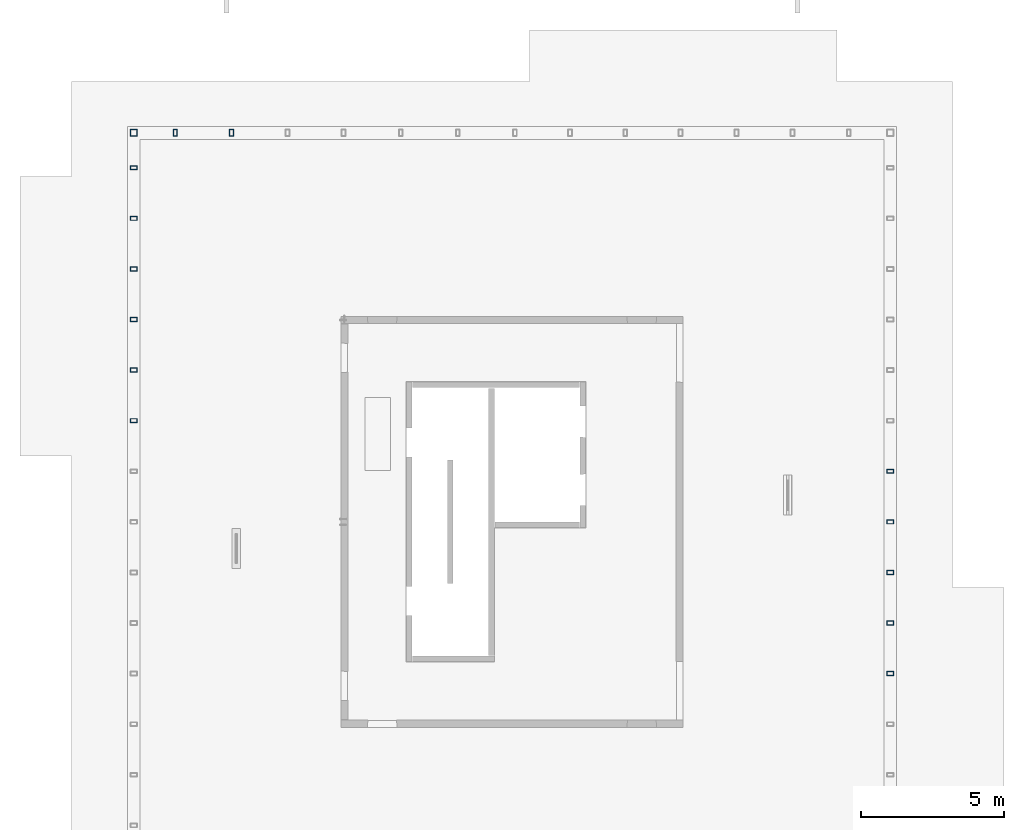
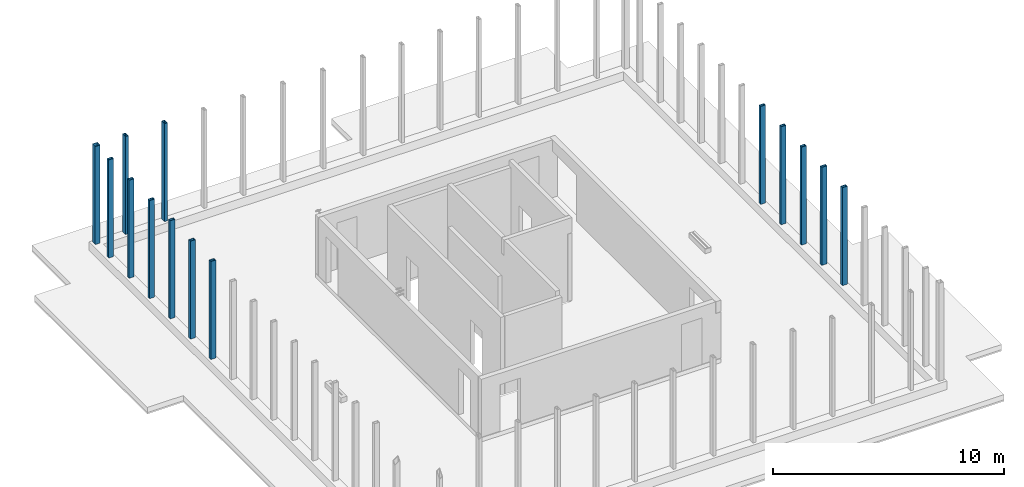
# One storey, part 3 of 9: 14 columns.
"""IFC2X3 building model written with IfcOpenShell, lengths in millimetres."""

from ifc_helpers import new_model, entity, si_unit, converted_unit, derived_unit, direction, frame, frame_2d, origin, place, context, subcontext, project, spatial, polyline, circle_curve, parameter, trimmed, segment, composite_curve, outline, extrude, source, transform, mapped, material, type_object, type_shapes, element, save


model = new_model("IFC2X3")

# Units and contexts
model_context = context("Model", 3, precision=0.01, world=origin(), true_north=direction((6.12303176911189e-17, 1.0)))
body_context = subcontext(model_context, "Body", "Model", "MODEL_VIEW")
ifc_project = project(units=[si_unit("LENGTHUNIT", "METRE", prefix="MILLI"), si_unit("AREAUNIT", "SQUARE_METRE"), si_unit("VOLUMEUNIT", "CUBIC_METRE"), converted_unit("PLANEANGLEUNIT", "DEGREE", entity("IfcRatioMeasure", 0.0174532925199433), si_unit("PLANEANGLEUNIT", "RADIAN"), dimensions=[0, 0, 0, 0, 0, 0, 0]), si_unit("MASSUNIT", "GRAM", prefix="KILO"), derived_unit("MASSDENSITYUNIT", [(si_unit("MASSUNIT", "GRAM", prefix="KILO"), 1), (si_unit("LENGTHUNIT", "METRE"), -3)]), si_unit("TIMEUNIT", "SECOND"), si_unit("FREQUENCYUNIT", "HERTZ"), si_unit("THERMODYNAMICTEMPERATUREUNIT", "DEGREE_CELSIUS"), derived_unit("THERMALTRANSMITTANCEUNIT", [(si_unit("MASSUNIT", "GRAM", prefix="KILO"), 1), (si_unit("THERMODYNAMICTEMPERATUREUNIT", "KELVIN"), -1), (si_unit("TIMEUNIT", "SECOND"), -3)]), derived_unit("VOLUMETRICFLOWRATEUNIT", [(si_unit("LENGTHUNIT", "METRE"), 3), (si_unit("TIMEUNIT", "SECOND"), -1)]), si_unit("ELECTRICCURRENTUNIT", "AMPERE"), si_unit("ELECTRICVOLTAGEUNIT", "VOLT"), si_unit("POWERUNIT", "WATT"), si_unit("FORCEUNIT", "NEWTON", prefix="KILO"), si_unit("ILLUMINANCEUNIT", "LUX"), si_unit("LUMINOUSFLUXUNIT", "LUMEN"), si_unit("LUMINOUSINTENSITYUNIT", "CANDELA"), derived_unit("USERDEFINED", [(si_unit("MASSUNIT", "GRAM", prefix="KILO"), -1), (si_unit("LENGTHUNIT", "METRE"), -2), (si_unit("TIMEUNIT", "SECOND"), 3), (si_unit("LUMINOUSFLUXUNIT", "LUMEN"), 1)]), derived_unit("LINEARVELOCITYUNIT", [(si_unit("LENGTHUNIT", "METRE"), 1), (si_unit("TIMEUNIT", "SECOND"), -1)]), si_unit("PRESSUREUNIT", "PASCAL"), derived_unit("USERDEFINED", [(si_unit("LENGTHUNIT", "METRE"), -2), (si_unit("MASSUNIT", "GRAM", prefix="KILO"), 1), (si_unit("TIMEUNIT", "SECOND"), -2)])], contexts=[model_context])

# Site, building, storey
site_placement = place(None, origin())
site = spatial("IfcSite", under=ifc_project, at=site_placement, Name="Default", CompositionType="ELEMENT")
building_placement = place(site_placement, origin())
building = spatial("IfcBuilding", under=site, at=building_placement, Name="niet gebruiken", CompositionType="ELEMENT")
storey_placement = place(building_placement, frame((0.0, 0.0, 178840.0)))
storey = spatial("IfcBuildingStorey", under=building, at=storey_placement, Name="57 zevenenvijftigste verdieping", CompositionType="ELEMENT", Elevation=178840.0)

# Columns
ifc_material = material(Name="NLRS_h2_staal")
column_type_1 = type_object("IfcColumnType", Name="kolom buisprofiel rechthoekig RHSH_250x150x16", PredefinedType="COLUMN", material=ifc_material)
shared_shape_1 = source(origin(), body_context, "Body", "SweptSolid", [
    extrude(outline(polyline([(-125.0, -75.0), (125.0, -75.0), (125.0, 75.0), (-125.0, 75.0), (-125.0, -75.0)]), holes=[composite_curve([segment(trimmed(circle_curve(frame_2d((-96.5, -46.5000000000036), x_axis=(0.0, 1.0)), 12.5), [parameter(90.0)], [parameter(180.0)], True, "PARAMETER"), False, "CONTINUOUS"), segment(polyline([(-109.0, -46.4999999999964), (-109.0, 46.5)]), True, "CONTINUOUS"), segment(trimmed(circle_curve(frame_2d((-96.5, 46.5), x_axis=(0.0, 1.0)), 12.5), [parameter(360.0)], [parameter(89.9999999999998)], True, "PARAMETER"), False, "CONTINUOUS"), segment(polyline([(-96.4999999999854, 59.0), (96.5, 59.0)]), True, "CONTINUOUS"), segment(trimmed(circle_curve(frame_2d((96.5, 46.5), x_axis=(0.0, 1.0)), 12.5), [parameter(270.0)], [parameter(360.0)], True, "PARAMETER"), False, "CONTINUOUS"), segment(polyline([(109.0, 46.5), (109.0, -46.4999999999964)]), True, "CONTINUOUS"), segment(trimmed(circle_curve(frame_2d((96.5, -46.5000000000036), x_axis=(0.0, 1.0)), 12.5), [parameter(180.0)], [parameter(270.0)], True, "PARAMETER"), False, "CONTINUOUS"), segment(polyline([(96.5, -59.0), (-96.4999999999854, -59.0)]), True, "CONTINUOUS")], self_intersect=False)]), frame((128495.0, 24590.0, 179010.0)), (0.0, 0.0, 1.0), 5190.00000000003),
])
type_shapes(column_type_1, [shared_shape_1])
column_1_placement = place(storey_placement, frame((0.0, 0.0, -178840.0)))
element("IfcColumn", 1, at=column_1_placement, inside=storey, type_object=column_type_1, material=ifc_material, Name="NLRS_28.11_SCO_TLB_stalen kolom buisprofiel rechthoekig_gen:kolom buisprofiel rechthoekig RHSH_250x150x16", ObjectType="kolom buisprofiel rechthoekig RHSH_250x150x16", context=body_context, shape_type="MappedRepresentation", body=[
    mapped(shared_shape_1, transform((0.0, 0.0, 0.0), scale=1.0)),
])
column_type_2 = type_object("IfcColumnType", Name="kolom buisprofiel rechthoekig RHSH_250x150x16", PredefinedType="COLUMN", material=ifc_material)
shared_shape_2 = source(origin(), body_context, "Body", "SweptSolid", [
    extrude(outline(polyline([(-125.0, -75.0), (125.0, -75.0), (125.0, 75.0), (-125.0, 75.0), (-125.0, -75.0)]), holes=[composite_curve([segment(trimmed(circle_curve(frame_2d((-96.5, -46.5), x_axis=(0.0, 1.0)), 12.5), [parameter(90.0)], [parameter(180.0)], True, "PARAMETER"), False, "CONTINUOUS"), segment(polyline([(-109.0, -46.5), (-109.0, 46.5)]), True, "CONTINUOUS"), segment(trimmed(circle_curve(frame_2d((-96.5, 46.5), x_axis=(0.0, 1.0)), 12.5), [parameter(360.0)], [parameter(89.9999999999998)], True, "PARAMETER"), False, "CONTINUOUS"), segment(polyline([(-96.5, 59.0), (96.5, 59.0)]), True, "CONTINUOUS"), segment(trimmed(circle_curve(frame_2d((96.5, 46.5), x_axis=(0.0, 1.0)), 12.5), [parameter(270.0)], [parameter(360.0)], True, "PARAMETER"), False, "CONTINUOUS"), segment(polyline([(109.0, 46.5), (109.0, -46.5)]), True, "CONTINUOUS"), segment(trimmed(circle_curve(frame_2d((96.5, -46.5), x_axis=(0.0, 1.0)), 12.5), [parameter(180.0)], [parameter(270.0)], True, "PARAMETER"), False, "CONTINUOUS"), segment(polyline([(96.5, -59.0), (-96.5, -59.0)]), True, "CONTINUOUS")], self_intersect=False)]), frame((155005.0, 17500.0, 179010.0)), (0.0, 0.0, 1.0), 5190.00000000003),
])
type_shapes(column_type_2, [shared_shape_2])
column_2_placement = place(storey_placement, frame((0.0, 0.0, -178840.0)))
element("IfcColumn", 2, at=column_2_placement, inside=storey, type_object=column_type_2, material=ifc_material, Name="NLRS_28.11_SCO_TLB_stalen kolom buisprofiel rechthoekig_gen:kolom buisprofiel rechthoekig RHSH_250x150x16", ObjectType="kolom buisprofiel rechthoekig RHSH_250x150x16", context=body_context, shape_type="MappedRepresentation", body=[
    mapped(shared_shape_2, transform((0.0, 0.0, 0.0), scale=1.0)),
])
column_type_3 = type_object("IfcColumnType", Name="kolom buisprofiel rechthoekig RHSH_250x150x16", PredefinedType="COLUMN", material=ifc_material)
shared_shape_3 = source(origin(), body_context, "Body", "SweptSolid", [
    extrude(outline(polyline([(-125.0, -75.0), (125.0, -75.0), (125.0, 75.0), (-125.0, 75.0), (-125.0, -75.0)]), holes=[composite_curve([segment(trimmed(circle_curve(frame_2d((-96.5000000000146, -46.5000000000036), x_axis=(0.0, 1.0)), 12.5), [parameter(90.0)], [parameter(180.0)], True, "PARAMETER"), False, "CONTINUOUS"), segment(polyline([(-109.0, -46.5), (-109.0, 46.4999999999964)]), True, "CONTINUOUS"), segment(trimmed(circle_curve(frame_2d((-96.5000000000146, 46.4999999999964), x_axis=(0.0, 1.0)), 12.5), [parameter(360.0)], [parameter(89.9999999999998)], True, "PARAMETER"), False, "CONTINUOUS"), segment(polyline([(-96.5, 59.0), (96.4999999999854, 59.0)]), True, "CONTINUOUS"), segment(trimmed(circle_curve(frame_2d((96.4999999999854, 46.4999999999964), x_axis=(0.0, 1.0)), 12.5), [parameter(270.0)], [parameter(360.0)], True, "PARAMETER"), False, "CONTINUOUS"), segment(polyline([(109.0, 46.4999999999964), (109.0, -46.5)]), True, "CONTINUOUS"), segment(trimmed(circle_curve(frame_2d((96.4999999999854, -46.5000000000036), x_axis=(0.0, 1.0)), 12.5), [parameter(180.0)], [parameter(270.0)], True, "PARAMETER"), False, "CONTINUOUS"), segment(polyline([(96.4999999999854, -59.0), (-96.5, -59.0)]), True, "CONTINUOUS")], self_intersect=False)]), frame((128495.0, 29907.5000000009, 179010.0)), (0.0, 0.0, 1.0), 5190.00000000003),
])
type_shapes(column_type_3, [shared_shape_3])
column_3_placement = place(storey_placement, frame((0.0, 0.0, -178840.0)))
element("IfcColumn", 3, at=column_3_placement, inside=storey, type_object=column_type_3, material=ifc_material, Name="NLRS_28.11_SCO_TLB_stalen kolom buisprofiel rechthoekig_gen:kolom buisprofiel rechthoekig RHSH_250x150x16", ObjectType="kolom buisprofiel rechthoekig RHSH_250x150x16", context=body_context, shape_type="MappedRepresentation", body=[
    mapped(shared_shape_3, transform((0.0, 0.0, 0.0), scale=1.0)),
])
column_type_4 = type_object("IfcColumnType", Name="kolom buisprofiel rechthoekig RHSH_250x150x16", PredefinedType="COLUMN", material=ifc_material)
shared_shape_4 = source(origin(), body_context, "Body", "SweptSolid", [
    extrude(outline(polyline([(-125.0, -75.0), (125.0, -75.0), (125.0, 75.0), (-125.0, 75.0), (-125.0, -75.0)]), holes=[composite_curve([segment(trimmed(circle_curve(frame_2d((-96.5000000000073, -46.4999999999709), x_axis=(0.0, 1.0)), 12.5), [parameter(90.0)], [parameter(180.0)], True, "PARAMETER"), False, "CONTINUOUS"), segment(polyline([(-109.0, -46.4999999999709), (-109.0, 46.5)]), True, "CONTINUOUS"), segment(trimmed(circle_curve(frame_2d((-96.5000000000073, 46.5), x_axis=(0.0, 1.0)), 12.5), [parameter(360.0)], [parameter(89.9999999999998)], True, "PARAMETER"), False, "CONTINUOUS"), segment(polyline([(-96.5000000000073, 59.0), (96.4999999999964, 59.0)]), True, "CONTINUOUS"), segment(trimmed(circle_curve(frame_2d((96.4999999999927, 46.5), x_axis=(0.0, 1.0)), 12.5), [parameter(270.0)], [parameter(360.0)], True, "PARAMETER"), False, "CONTINUOUS"), segment(polyline([(109.0, 46.5), (109.0, -46.4999999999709)]), True, "CONTINUOUS"), segment(trimmed(circle_curve(frame_2d((96.4999999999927, -46.4999999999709), x_axis=(0.0, 1.0)), 12.5), [parameter(180.0)], [parameter(270.0)], True, "PARAMETER"), False, "CONTINUOUS"), segment(polyline([(96.4999999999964, -59.0), (-96.5000000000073, -59.0)]), True, "CONTINUOUS")], self_intersect=False)]), frame((131916.666666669, 31130.0, 179010.0), z_axis=(0.0, 0.0, 1.0), x_axis=(0.0, -1.0, 0.0)), (0.0, 0.0, 1.0), 5190.00000000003),
])
type_shapes(column_type_4, [shared_shape_4])
column_4_placement = place(storey_placement, frame((0.0, 0.0, -178840.0)))
element("IfcColumn", 4, at=column_4_placement, inside=storey, type_object=column_type_4, material=ifc_material, Name="NLRS_28.11_SCO_TLB_stalen kolom buisprofiel rechthoekig_gen:kolom buisprofiel rechthoekig RHSH_250x150x16", ObjectType="kolom buisprofiel rechthoekig RHSH_250x150x16", context=body_context, shape_type="MappedRepresentation", body=[
    mapped(shared_shape_4, transform((0.0, 0.0, 0.0), scale=1.0)),
])
column_type_5 = type_object("IfcColumnType", Name="kolom buisprofiel rechthoekig RHSH_250x150x16", PredefinedType="COLUMN", material=ifc_material)
shared_shape_5 = source(origin(), body_context, "Body", "SweptSolid", [
    extrude(outline(polyline([(-125.0, -75.0), (125.0, -75.0), (125.0, 75.0), (-125.0, 75.0), (-125.0, -75.0)]), holes=[composite_curve([segment(trimmed(circle_curve(frame_2d((-96.5, -46.5), x_axis=(0.0, 1.0)), 12.5), [parameter(90.0)], [parameter(180.0)], True, "PARAMETER"), False, "CONTINUOUS"), segment(polyline([(-109.0, -46.5), (-109.0, 46.5)]), True, "CONTINUOUS"), segment(trimmed(circle_curve(frame_2d((-96.5, 46.5), x_axis=(0.0, 1.0)), 12.5), [parameter(360.0)], [parameter(89.9999999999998)], True, "PARAMETER"), False, "CONTINUOUS"), segment(polyline([(-96.5, 59.0), (96.5000000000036, 59.0)]), True, "CONTINUOUS"), segment(trimmed(circle_curve(frame_2d((96.5, 46.5), x_axis=(0.0, 1.0)), 12.5), [parameter(270.0)], [parameter(360.0)], True, "PARAMETER"), False, "CONTINUOUS"), segment(polyline([(109.0, 46.5), (109.0, -46.5)]), True, "CONTINUOUS"), segment(trimmed(circle_curve(frame_2d((96.5, -46.5), x_axis=(0.0, 1.0)), 12.5), [parameter(180.0)], [parameter(270.0)], True, "PARAMETER"), False, "CONTINUOUS"), segment(polyline([(96.5000000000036, -59.0), (-96.5, -59.0)]), True, "CONTINUOUS")], self_intersect=False)]), frame((129950.0, 31130.0, 179010.0), z_axis=(0.0, 0.0, 1.0), x_axis=(0.0, -1.0, 0.0)), (0.0, 0.0, 1.0), 5190.00000000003),
])
type_shapes(column_type_5, [shared_shape_5])
column_5_placement = place(storey_placement, frame((0.0, 0.0, -178840.0)))
element("IfcColumn", 5, at=column_5_placement, inside=storey, type_object=column_type_5, material=ifc_material, Name="NLRS_28.11_SCO_TLB_stalen kolom buisprofiel rechthoekig_gen:kolom buisprofiel rechthoekig RHSH_250x150x16", ObjectType="kolom buisprofiel rechthoekig RHSH_250x150x16", context=body_context, shape_type="MappedRepresentation", body=[
    mapped(shared_shape_5, transform((0.0, 0.0, 0.0), scale=1.0)),
])
column_type_6 = type_object("IfcColumnType", Name="kolom buisprofiel rechthoekig RHSH_250x150x16", PredefinedType="COLUMN", material=ifc_material)
shared_shape_6 = source(origin(), body_context, "Body", "SweptSolid", [
    extrude(outline(polyline([(-125.0, -75.0), (125.0, -75.0), (125.0, 75.0), (-125.0, 75.0), (-125.0, -75.0)]), holes=[composite_curve([segment(trimmed(circle_curve(frame_2d((-96.5000000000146, -46.5000000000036), x_axis=(0.0, 1.0)), 12.5), [parameter(90.0)], [parameter(180.0)], True, "PARAMETER"), False, "CONTINUOUS"), segment(polyline([(-109.0, -46.4999999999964), (-109.0, 46.5)]), True, "CONTINUOUS"), segment(trimmed(circle_curve(frame_2d((-96.5000000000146, 46.5), x_axis=(0.0, 1.0)), 12.5), [parameter(360.0)], [parameter(89.9999999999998)], True, "PARAMETER"), False, "CONTINUOUS"), segment(polyline([(-96.5, 59.0), (96.4999999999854, 59.0)]), True, "CONTINUOUS"), segment(trimmed(circle_curve(frame_2d((96.4999999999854, 46.5), x_axis=(0.0, 1.0)), 12.5), [parameter(270.0)], [parameter(360.0)], True, "PARAMETER"), False, "CONTINUOUS"), segment(polyline([(109.0, 46.5), (109.0, -46.4999999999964)]), True, "CONTINUOUS"), segment(trimmed(circle_curve(frame_2d((96.4999999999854, -46.5000000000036), x_axis=(0.0, 1.0)), 12.5), [parameter(180.0)], [parameter(270.0)], True, "PARAMETER"), False, "CONTINUOUS"), segment(polyline([(96.4999999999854, -59.0), (-96.5, -59.0)]), True, "CONTINUOUS")], self_intersect=False)]), frame((128495.0, 28135.0, 179010.0)), (0.0, 0.0, 1.0), 5190.00000000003),
])
type_shapes(column_type_6, [shared_shape_6])
column_6_placement = place(storey_placement, frame((0.0, 0.0, -178840.0)))
element("IfcColumn", 6, at=column_6_placement, inside=storey, type_object=column_type_6, material=ifc_material, Name="NLRS_28.11_SCO_TLB_stalen kolom buisprofiel rechthoekig_gen:kolom buisprofiel rechthoekig RHSH_250x150x16", ObjectType="kolom buisprofiel rechthoekig RHSH_250x150x16", context=body_context, shape_type="MappedRepresentation", body=[
    mapped(shared_shape_6, transform((0.0, 0.0, 0.0), scale=1.0)),
])
column_type_7 = type_object("IfcColumnType", Name="kolom buisprofiel rechthoekig RHSH_250x150x16", PredefinedType="COLUMN", material=ifc_material)
shared_shape_7 = source(origin(), body_context, "Body", "SweptSolid", [
    extrude(outline(polyline([(-125.0, -75.0), (125.0, -75.0), (125.0, 75.0), (-125.0, 75.0), (-125.0, -75.0)]), holes=[composite_curve([segment(trimmed(circle_curve(frame_2d((-96.5000000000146, -46.5000000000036), x_axis=(0.0, 1.0)), 12.5), [parameter(90.0)], [parameter(180.0)], True, "PARAMETER"), False, "CONTINUOUS"), segment(polyline([(-109.0, -46.4999999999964), (-109.0, 46.5)]), True, "CONTINUOUS"), segment(trimmed(circle_curve(frame_2d((-96.5000000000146, 46.5), x_axis=(0.0, 1.0)), 12.5), [parameter(360.0)], [parameter(89.9999999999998)], True, "PARAMETER"), False, "CONTINUOUS"), segment(polyline([(-96.5, 59.0), (96.4999999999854, 59.0)]), True, "CONTINUOUS"), segment(trimmed(circle_curve(frame_2d((96.4999999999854, 46.5), x_axis=(0.0, 1.0)), 12.5), [parameter(270.0)], [parameter(360.0)], True, "PARAMETER"), False, "CONTINUOUS"), segment(polyline([(109.0, 46.5), (109.0, -46.4999999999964)]), True, "CONTINUOUS"), segment(trimmed(circle_curve(frame_2d((96.4999999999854, -46.5000000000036), x_axis=(0.0, 1.0)), 12.5), [parameter(180.0)], [parameter(270.0)], True, "PARAMETER"), False, "CONTINUOUS"), segment(polyline([(96.4999999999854, -59.0), (-96.5, -59.0)]), True, "CONTINUOUS")], self_intersect=False)]), frame((128495.0, 26362.5000000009, 179010.0)), (0.0, 0.0, 1.0), 5190.00000000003),
])
type_shapes(column_type_7, [shared_shape_7])
column_7_placement = place(storey_placement, frame((0.0, 0.0, -178840.0)))
element("IfcColumn", 7, at=column_7_placement, inside=storey, type_object=column_type_7, material=ifc_material, Name="NLRS_28.11_SCO_TLB_stalen kolom buisprofiel rechthoekig_gen:kolom buisprofiel rechthoekig RHSH_250x150x16", ObjectType="kolom buisprofiel rechthoekig RHSH_250x150x16", context=body_context, shape_type="MappedRepresentation", body=[
    mapped(shared_shape_7, transform((0.0, 0.0, 0.0), scale=1.0)),
])
column_type_8 = type_object("IfcColumnType", Name="kolom buisprofiel rechthoekig RHSH_250x150x16", PredefinedType="COLUMN", material=ifc_material)
shared_shape_8 = source(origin(), body_context, "Body", "SweptSolid", [
    extrude(outline(polyline([(-125.0, -75.0), (125.0, -75.0), (125.0, 75.0), (-125.0, 75.0), (-125.0, -75.0)]), holes=[composite_curve([segment(trimmed(circle_curve(frame_2d((-96.5000000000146, -46.5), x_axis=(0.0, 1.0)), 12.5), [parameter(90.0)], [parameter(180.0)], True, "PARAMETER"), False, "CONTINUOUS"), segment(polyline([(-109.0, -46.4999999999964), (-109.0, 46.5)]), True, "CONTINUOUS"), segment(trimmed(circle_curve(frame_2d((-96.5000000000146, 46.5), x_axis=(0.0, 1.0)), 12.5), [parameter(360.0)], [parameter(89.9999999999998)], True, "PARAMETER"), False, "CONTINUOUS"), segment(polyline([(-96.5, 59.0), (96.4999999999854, 59.0)]), True, "CONTINUOUS"), segment(trimmed(circle_curve(frame_2d((96.4999999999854, 46.5), x_axis=(0.0, 1.0)), 12.5), [parameter(270.0)], [parameter(360.0)], True, "PARAMETER"), False, "CONTINUOUS"), segment(polyline([(109.0, 46.5), (109.0, -46.4999999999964)]), True, "CONTINUOUS"), segment(trimmed(circle_curve(frame_2d((96.4999999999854, -46.5), x_axis=(0.0, 1.0)), 12.5), [parameter(180.0)], [parameter(270.0)], True, "PARAMETER"), False, "CONTINUOUS"), segment(polyline([(96.4999999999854, -59.0), (-96.5, -59.0)]), True, "CONTINUOUS")], self_intersect=False)]), frame((128495.0, 22817.5000000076, 179010.0)), (0.0, 0.0, 1.0), 5190.00000000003),
])
type_shapes(column_type_8, [shared_shape_8])
column_8_placement = place(storey_placement, frame((0.0, 0.0, -178840.0)))
element("IfcColumn", 8, at=column_8_placement, inside=storey, type_object=column_type_8, material=ifc_material, Name="NLRS_28.11_SCO_TLB_stalen kolom buisprofiel rechthoekig_gen:kolom buisprofiel rechthoekig RHSH_250x150x16", ObjectType="kolom buisprofiel rechthoekig RHSH_250x150x16", context=body_context, shape_type="MappedRepresentation", body=[
    mapped(shared_shape_8, transform((0.0, 0.0, 0.0), scale=1.0)),
])
column_type_9 = type_object("IfcColumnType", Name="kolom buisprofiel rechthoekig RHSH_250x150x16", PredefinedType="COLUMN", material=ifc_material)
shared_shape_9 = source(origin(), body_context, "Body", "SweptSolid", [
    extrude(outline(polyline([(-125.0, -75.0), (125.0, -75.0), (125.0, 75.0), (-125.0, 75.0), (-125.0, -75.0)]), holes=[composite_curve([segment(trimmed(circle_curve(frame_2d((-96.5000000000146, -46.5000000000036), x_axis=(0.0, 1.0)), 12.5), [parameter(90.0)], [parameter(180.0)], True, "PARAMETER"), False, "CONTINUOUS"), segment(polyline([(-109.0, -46.4999999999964), (-109.0, 46.5)]), True, "CONTINUOUS"), segment(trimmed(circle_curve(frame_2d((-96.5000000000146, 46.5), x_axis=(0.0, 1.0)), 12.5), [parameter(360.0)], [parameter(89.9999999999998)], True, "PARAMETER"), False, "CONTINUOUS"), segment(polyline([(-96.5, 59.0), (96.4999999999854, 59.0)]), True, "CONTINUOUS"), segment(trimmed(circle_curve(frame_2d((96.4999999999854, 46.5), x_axis=(0.0, 1.0)), 12.5), [parameter(270.0)], [parameter(360.0)], True, "PARAMETER"), False, "CONTINUOUS"), segment(polyline([(109.0, 46.5), (109.0, -46.4999999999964)]), True, "CONTINUOUS"), segment(trimmed(circle_curve(frame_2d((96.4999999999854, -46.5000000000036), x_axis=(0.0, 1.0)), 12.5), [parameter(180.0)], [parameter(270.0)], True, "PARAMETER"), False, "CONTINUOUS"), segment(polyline([(96.4999999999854, -59.0), (-96.5, -59.0)]), True, "CONTINUOUS")], self_intersect=False)]), frame((128495.0, 21045.0, 179010.0)), (0.0, 0.0, 1.0), 5190.00000000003),
])
type_shapes(column_type_9, [shared_shape_9])
column_9_placement = place(storey_placement, frame((0.0, 0.0, -178840.0)))
element("IfcColumn", 9, at=column_9_placement, inside=storey, type_object=column_type_9, material=ifc_material, Name="NLRS_28.11_SCO_TLB_stalen kolom buisprofiel rechthoekig_gen:kolom buisprofiel rechthoekig RHSH_250x150x16", ObjectType="kolom buisprofiel rechthoekig RHSH_250x150x16", context=body_context, shape_type="MappedRepresentation", body=[
    mapped(shared_shape_9, transform((0.0, 0.0, 0.0), scale=1.0)),
])
column_type_10 = type_object("IfcColumnType", Name="kolom buisprofiel rechthoekig RHSH_250x150x16", PredefinedType="COLUMN", material=ifc_material)
shared_shape_10 = source(origin(), body_context, "Body", "SweptSolid", [
    extrude(outline(polyline([(-125.0, -75.0), (125.0, -75.0), (125.0, 75.0), (-125.0, 75.0), (-125.0, -75.0)]), holes=[composite_curve([segment(trimmed(circle_curve(frame_2d((-96.5, -46.5), x_axis=(0.0, 1.0)), 12.5), [parameter(90.0)], [parameter(180.0)], True, "PARAMETER"), False, "CONTINUOUS"), segment(polyline([(-109.0, -46.5), (-109.0, 46.5)]), True, "CONTINUOUS"), segment(trimmed(circle_curve(frame_2d((-96.5, 46.5), x_axis=(0.0, 1.0)), 12.5), [parameter(360.0)], [parameter(89.9999999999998)], True, "PARAMETER"), False, "CONTINUOUS"), segment(polyline([(-96.4999999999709, 59.0), (96.5000000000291, 59.0)]), True, "CONTINUOUS"), segment(trimmed(circle_curve(frame_2d((96.5000000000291, 46.5), x_axis=(0.0, 1.0)), 12.5), [parameter(270.0)], [parameter(360.0)], True, "PARAMETER"), False, "CONTINUOUS"), segment(polyline([(109.0, 46.5), (109.0, -46.5)]), True, "CONTINUOUS"), segment(trimmed(circle_curve(frame_2d((96.5000000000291, -46.5), x_axis=(0.0, 1.0)), 12.5), [parameter(180.0)], [parameter(270.0)], True, "PARAMETER"), False, "CONTINUOUS"), segment(polyline([(96.5000000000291, -59.0), (-96.4999999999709, -59.0)]), True, "CONTINUOUS")], self_intersect=False)]), frame((155005.0, 19272.4999999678, 179010.0)), (0.0, 0.0, 1.0), 5190.00000000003),
])
type_shapes(column_type_10, [shared_shape_10])
column_10_placement = place(storey_placement, frame((0.0, 0.0, -178840.0)))
element("IfcColumn", 10, at=column_10_placement, inside=storey, type_object=column_type_10, material=ifc_material, Name="NLRS_28.11_SCO_TLB_stalen kolom buisprofiel rechthoekig_gen:kolom buisprofiel rechthoekig RHSH_250x150x16", ObjectType="kolom buisprofiel rechthoekig RHSH_250x150x16", context=body_context, shape_type="MappedRepresentation", body=[
    mapped(shared_shape_10, transform((0.0, 0.0, 0.0), scale=1.0)),
])
column_type_11 = type_object("IfcColumnType", Name="kolom buisprofiel rechthoekig RHSH_250x150x16", PredefinedType="COLUMN", material=ifc_material)
shared_shape_11 = source(origin(), body_context, "Body", "SweptSolid", [
    extrude(outline(polyline([(-125.0, -75.0), (125.0, -75.0), (125.0, 75.0), (-125.0, 75.0), (-125.0, -75.0)]), holes=[composite_curve([segment(trimmed(circle_curve(frame_2d((-96.5, -46.5), x_axis=(0.0, 1.0)), 12.5), [parameter(90.0)], [parameter(180.0)], True, "PARAMETER"), False, "CONTINUOUS"), segment(polyline([(-109.0, -46.5), (-109.0, 46.5000000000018)]), True, "CONTINUOUS"), segment(trimmed(circle_curve(frame_2d((-96.5, 46.5000000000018), x_axis=(0.0, 1.0)), 12.5), [parameter(360.0)], [parameter(89.9999999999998)], True, "PARAMETER"), False, "CONTINUOUS"), segment(polyline([(-96.4999999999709, 59.0), (96.5000000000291, 59.0)]), True, "CONTINUOUS"), segment(trimmed(circle_curve(frame_2d((96.5000000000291, 46.5000000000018), x_axis=(0.0, 1.0)), 12.5), [parameter(270.0)], [parameter(360.0)], True, "PARAMETER"), False, "CONTINUOUS"), segment(polyline([(109.0, 46.5000000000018), (109.0, -46.5)]), True, "CONTINUOUS"), segment(trimmed(circle_curve(frame_2d((96.5000000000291, -46.5), x_axis=(0.0, 1.0)), 12.5), [parameter(180.0)], [parameter(270.0)], True, "PARAMETER"), False, "CONTINUOUS"), segment(polyline([(96.5000000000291, -59.0), (-96.4999999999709, -59.0)]), True, "CONTINUOUS")], self_intersect=False)]), frame((155005.0, 15727.4999999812, 179010.0)), (0.0, 0.0, 1.0), 5190.00000000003),
])
type_shapes(column_type_11, [shared_shape_11])
column_11_placement = place(storey_placement, frame((0.0, 0.0, -178840.0)))
element("IfcColumn", 11, at=column_11_placement, inside=storey, type_object=column_type_11, material=ifc_material, Name="NLRS_28.11_SCO_TLB_stalen kolom buisprofiel rechthoekig_gen:kolom buisprofiel rechthoekig RHSH_250x150x16", ObjectType="kolom buisprofiel rechthoekig RHSH_250x150x16", context=body_context, shape_type="MappedRepresentation", body=[
    mapped(shared_shape_11, transform((0.0, 0.0, 0.0), scale=1.0)),
])
column_type_12 = type_object("IfcColumnType", Name="kolom buisprofiel rechthoekig RHSH_250x150x16", PredefinedType="COLUMN", material=ifc_material)
shared_shape_12 = source(origin(), body_context, "Body", "SweptSolid", [
    extrude(outline(polyline([(-125.0, -75.0), (125.0, -75.0), (125.0, 75.0), (-125.0, 75.0), (-125.0, -75.0)]), holes=[composite_curve([segment(trimmed(circle_curve(frame_2d((-96.5, -46.5000000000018), x_axis=(0.0, 1.0)), 12.5), [parameter(90.0)], [parameter(180.0)], True, "PARAMETER"), False, "CONTINUOUS"), segment(polyline([(-109.0, -46.5000000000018), (-109.0, 46.5)]), True, "CONTINUOUS"), segment(trimmed(circle_curve(frame_2d((-96.5, 46.5), x_axis=(0.0, 1.0)), 12.5), [parameter(360.0)], [parameter(89.9999999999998)], True, "PARAMETER"), False, "CONTINUOUS"), segment(polyline([(-96.4999999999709, 59.0), (96.5000000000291, 59.0)]), True, "CONTINUOUS"), segment(trimmed(circle_curve(frame_2d((96.5000000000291, 46.5), x_axis=(0.0, 1.0)), 12.5), [parameter(270.0)], [parameter(360.0)], True, "PARAMETER"), False, "CONTINUOUS"), segment(polyline([(109.0, 46.5), (109.0, -46.5000000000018)]), True, "CONTINUOUS"), segment(trimmed(circle_curve(frame_2d((96.5000000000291, -46.5000000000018), x_axis=(0.0, 1.0)), 12.5), [parameter(180.0)], [parameter(270.0)], True, "PARAMETER"), False, "CONTINUOUS"), segment(polyline([(96.5000000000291, -59.0), (-96.4999999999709, -59.0)]), True, "CONTINUOUS")], self_intersect=False)]), frame((155005.0, 13955.0, 179010.0)), (0.0, 0.0, 1.0), 5190.00000000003),
])
type_shapes(column_type_12, [shared_shape_12])
column_12_placement = place(storey_placement, frame((0.0, 0.0, -178840.0)))
element("IfcColumn", 12, at=column_12_placement, inside=storey, type_object=column_type_12, material=ifc_material, Name="NLRS_28.11_SCO_TLB_stalen kolom buisprofiel rechthoekig_gen:kolom buisprofiel rechthoekig RHSH_250x150x16", ObjectType="kolom buisprofiel rechthoekig RHSH_250x150x16", context=body_context, shape_type="MappedRepresentation", body=[
    mapped(shared_shape_12, transform((0.0, 0.0, 0.0), scale=1.0)),
])
column_type_13 = type_object("IfcColumnType", Name="kolom buisprofiel rechthoekig RHSH_250x150x16", PredefinedType="COLUMN", material=ifc_material)
shared_shape_13 = source(origin(), body_context, "Body", "SweptSolid", [
    extrude(outline(polyline([(-125.0, -75.0), (125.0, -75.0), (125.0, 75.0), (-125.0, 75.0), (-125.0, -75.0)]), holes=[composite_curve([segment(trimmed(circle_curve(frame_2d((-96.5, -46.5), x_axis=(0.0, 1.0)), 12.5), [parameter(90.0)], [parameter(180.0)], True, "PARAMETER"), False, "CONTINUOUS"), segment(polyline([(-109.0, -46.5), (-109.0, 46.5)]), True, "CONTINUOUS"), segment(trimmed(circle_curve(frame_2d((-96.5, 46.5), x_axis=(0.0, 1.0)), 12.5), [parameter(360.0)], [parameter(89.9999999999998)], True, "PARAMETER"), False, "CONTINUOUS"), segment(polyline([(-96.4999999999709, 59.0), (96.5000000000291, 59.0)]), True, "CONTINUOUS"), segment(trimmed(circle_curve(frame_2d((96.5000000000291, 46.5), x_axis=(0.0, 1.0)), 12.5), [parameter(270.0)], [parameter(360.0)], True, "PARAMETER"), False, "CONTINUOUS"), segment(polyline([(109.0, 46.5), (109.0, -46.5)]), True, "CONTINUOUS"), segment(trimmed(circle_curve(frame_2d((96.5000000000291, -46.5), x_axis=(0.0, 1.0)), 12.5), [parameter(180.0)], [parameter(270.0)], True, "PARAMETER"), False, "CONTINUOUS"), segment(polyline([(96.5000000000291, -59.0), (-96.4999999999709, -59.0)]), True, "CONTINUOUS")], self_intersect=False)]), frame((155005.0, 12182.4999999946, 179010.0)), (0.0, 0.0, 1.0), 5190.00000000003),
])
type_shapes(column_type_13, [shared_shape_13])
column_13_placement = place(storey_placement, frame((0.0, 0.0, -178840.0)))
element("IfcColumn", 13, at=column_13_placement, inside=storey, type_object=column_type_13, material=ifc_material, Name="NLRS_28.11_SCO_TLB_stalen kolom buisprofiel rechthoekig_gen:kolom buisprofiel rechthoekig RHSH_250x150x16", ObjectType="kolom buisprofiel rechthoekig RHSH_250x150x16", context=body_context, shape_type="MappedRepresentation", body=[
    mapped(shared_shape_13, transform((0.0, 0.0, 0.0), scale=1.0)),
])
column_type_14 = type_object("IfcColumnType", Name="kolom buisprofiel warmgevormd vierkant SHSH_250x250x16", PredefinedType="COLUMN", material=ifc_material)
shared_shape_14 = source(origin(), body_context, "Body", "SweptSolid", [
    extrude(outline(polyline([(-125.0, -125.0), (125.0, -125.0), (125.0, 125.0), (-125.0, 125.0), (-125.0, -125.0)]), holes=[composite_curve([segment(trimmed(circle_curve(frame_2d((-99.0, -99.0), x_axis=(0.0, 1.0)), 10.0), [parameter(90.0000000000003)], [parameter(180.0)], True, "PARAMETER"), False, "CONTINUOUS"), segment(polyline([(-109.0, -99.0), (-109.0, 99.0)]), True, "CONTINUOUS"), segment(trimmed(circle_curve(frame_2d((-99.0, 99.0), x_axis=(0.0, 1.0)), 10.0), [parameter(0.0)], [parameter(89.9999999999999)], True, "PARAMETER"), False, "CONTINUOUS"), segment(polyline([(-99.0, 109.0), (99.0, 109.0)]), True, "CONTINUOUS"), segment(trimmed(circle_curve(frame_2d((99.0, 99.0), x_axis=(0.0, 1.0)), 10.0), [parameter(270.0)], [parameter(360.0)], True, "PARAMETER"), False, "CONTINUOUS"), segment(polyline([(109.0, 99.0), (109.0, -99.0)]), True, "CONTINUOUS"), segment(trimmed(circle_curve(frame_2d((99.0, -99.0), x_axis=(0.0, 1.0)), 10.0), [parameter(180.0)], [parameter(270.0)], True, "PARAMETER"), False, "CONTINUOUS"), segment(polyline([(99.0, -109.0), (-99.0, -109.0)]), True, "CONTINUOUS")], self_intersect=False)]), frame((128495.0, 31130.0, 179010.0), z_axis=(0.0, 0.0, 1.0), x_axis=(0.0, -1.0, 0.0)), (0.0, 0.0, 1.0), 5190.00000000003),
])
type_shapes(column_type_14, [shared_shape_14])
column_14_placement = place(storey_placement, frame((0.0, 0.0, -178840.0)))
element("IfcColumn", 14, at=column_14_placement, inside=storey, type_object=column_type_14, material=ifc_material, Name="NLRS_28.11_SCO_TLB_stalen kolom buisprofiel warmgevormd vierkant_gen:kolom buisprofiel warmgevormd vierkant SHSH_250x250x16", ObjectType="kolom buisprofiel warmgevormd vierkant SHSH_250x250x16", context=body_context, shape_type="MappedRepresentation", body=[
    mapped(shared_shape_14, transform((0.0, 0.0, 0.0), scale=1.0)),
])

save(model, "model.ifc")
